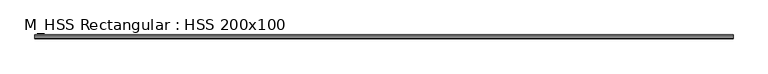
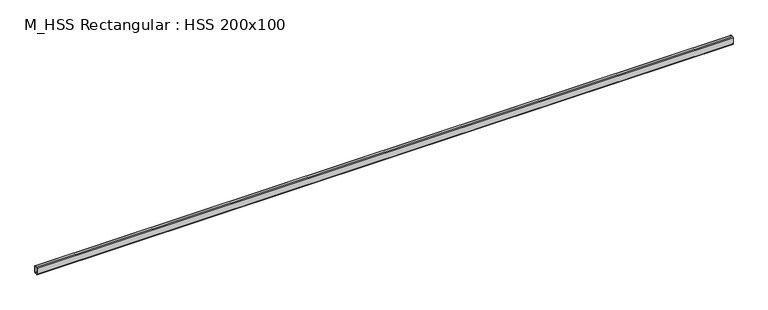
"""IFC4 building model written with IfcOpenShell, lengths in millimetres: beam geometry, M_HSS Rectangular : HSS 200x100."""

from ifc_helpers import new_model, si_unit, point, frame, frame_2d, origin, place, context, project, spatial, polyline, circle_curve, trimmed, segment, composite_curve, outline, extrude, source, transform, mapped, element, save


def m_hss_rectangular_hss_200x100_71414934(model_context):
    return source(origin(), model_context, "Body", "SweptSolid", [
        extrude(outline(composite_curve([segment(trimmed(circle_curve(frame_2d((-30.94, 80.94)), 19.06), [point((-50.0, 80.94))], [point((-30.94, 100.0))], False, "CARTESIAN"), True, "CONTINUOUS"), segment(polyline([(-30.94, 100.0), (30.94, 100.0)]), True, "CONTINUOUS"), segment(trimmed(circle_curve(frame_2d((30.94, 80.94)), 19.06), [point((30.94, 100.0))], [point((50.0, 80.94))], False, "CARTESIAN"), True, "CONTINUOUS"), segment(polyline([(50.0, 80.94), (50.0, -80.94)]), True, "CONTINUOUS"), segment(trimmed(circle_curve(frame_2d((30.94, -80.94)), 19.06), [point((50.0, -80.94))], [point((30.94, -100.0))], False, "CARTESIAN"), True, "CONTINUOUS"), segment(polyline([(30.94, -100.0), (-30.94, -100.0)]), True, "CONTINUOUS"), segment(trimmed(circle_curve(frame_2d((-30.94, -80.94)), 19.06), [point((-30.94, -100.0))], [point((-50.0, -80.94))], False, "CARTESIAN"), True, "CONTINUOUS"), segment(polyline([(-50.0, -80.94), (-50.0, 80.94)]), True, "CONTINUOUS")], self_intersect=False), holes=[composite_curve([segment(polyline([(30.94, 90.47), (-30.94, 90.47)]), True, "CONTINUOUS"), segment(trimmed(circle_curve(frame_2d((-30.94, 80.94)), 9.53), [point((-30.94, 90.47))], [point((-40.47, 80.94))], True, "CARTESIAN"), True, "CONTINUOUS"), segment(polyline([(-40.47, 80.94), (-40.47, -80.94)]), True, "CONTINUOUS"), segment(trimmed(circle_curve(frame_2d((-30.94, -80.94)), 9.53), [point((-40.47, -80.94))], [point((-30.94, -90.47))], True, "CARTESIAN"), True, "CONTINUOUS"), segment(polyline([(-30.94, -90.47), (30.94, -90.47)]), True, "CONTINUOUS"), segment(trimmed(circle_curve(frame_2d((30.94, -80.94)), 9.53), [point((30.94, -90.47))], [point((40.47, -80.94))], True, "CARTESIAN"), True, "CONTINUOUS"), segment(polyline([(40.47, -80.94), (40.47, 80.94)]), True, "CONTINUOUS"), segment(trimmed(circle_curve(frame_2d((30.94, 80.94)), 9.53), [point((40.47, 80.94))], [point((30.94, 90.47))], True, "CARTESIAN"), True, "CONTINUOUS")], self_intersect=False)]), frame((-9049.95, 0.0, 0.0), z_axis=(1.0, 0.0, 0.0), x_axis=(0.0, 1.0, 0.0)), (0.0, 0.0, 1.0), 18099.9),
    ])


if __name__ == "__main__":
    model = new_model("IFC4")
    model_context = context("Model", 3, world=origin())
    ifc_project = project(units=[si_unit("LENGTHUNIT", "METRE", prefix="MILLI")], contexts=[model_context])
    site = spatial("IfcSite", under=ifc_project)
    building = spatial("IfcBuilding", under=site)
    placement = place(None, origin())
    m_hss_rectangular_hss_200x100_shape = m_hss_rectangular_hss_200x100_71414934(model_context)
    element("IfcBeam", 1, ObjectType="M_HSS Rectangular : HSS 200x100", at=placement, inside=building, context=model_context, shape_type="MappedRepresentation", body=[
        mapped(m_hss_rectangular_hss_200x100_shape, transform((0.0, 0.0, 0.0), x_axis=(1.0, 0.0, 0.0), y_axis=(0.0, 1.0, 0.0), z_axis=(0.0, 0.0, 1.0))),
    ])
    save(model, "model.ifc")
